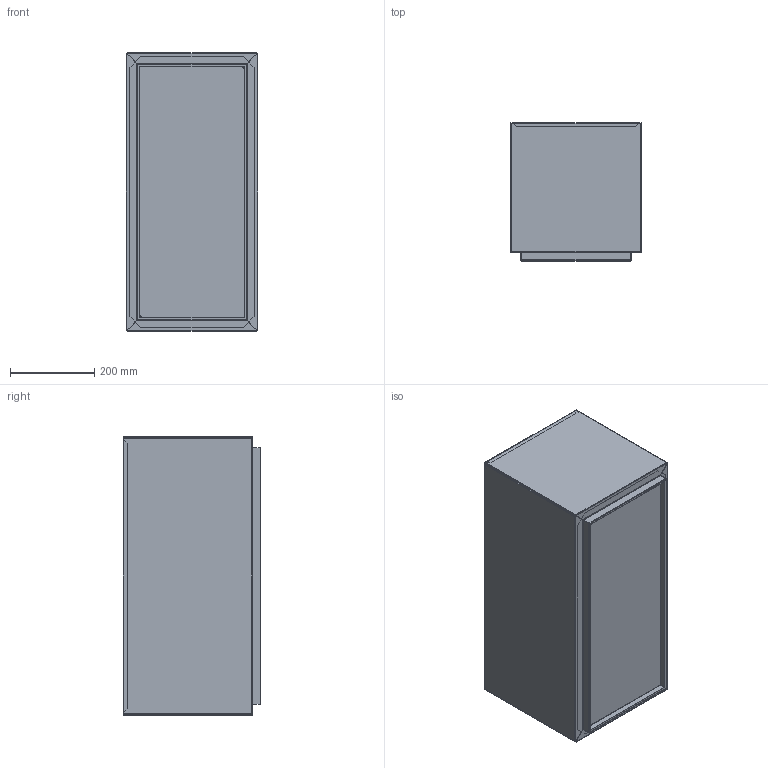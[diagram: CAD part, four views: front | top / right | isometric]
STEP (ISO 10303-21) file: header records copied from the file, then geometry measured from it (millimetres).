
FILE_DESCRIPTION((''),'2;1');
FILE_NAME('22059_ASM','2023-07-10T15:07:56',('joshb'),(''),'CREO PARAMETRIC BY PTC INC, 2019344','CREO PARAMETRIC BY PTC INC, 2019344','');
FILE_SCHEMA(('CONFIG_CONTROL_DESIGN'));
Length unit declared in the file: inch
Products named in the file (4): 22057-012-XXX; 22057-026-XXX; 22062-026-XXX; 22059_ASM
Assembly tree (5 placements, depth 2):
  22059_ASM
    22057-012-XXX  x2
    22057-026-XXX  x2
    22062-026-XXX
Bounding box: 313.08 x 327.95 x 662.36 mm (x, y, z)
Volume: 860625 mm3; surface area: 1897302.3 mm2
Topology: 5 solids, 5 shells, 722 faces, 1820 edges, 1084 vertices
Faces by surface type: plane 426, bspline 156, cylinder 140
Entity records: 14465 total; most frequent: CARTESIAN_POINT 6010, ORIENTED_EDGE 1856, DIRECTION 1456, EDGE_CURVE 928, VECTOR 666, LINE 666, VERTEX_POINT 554, EDGE_LOOP 412
